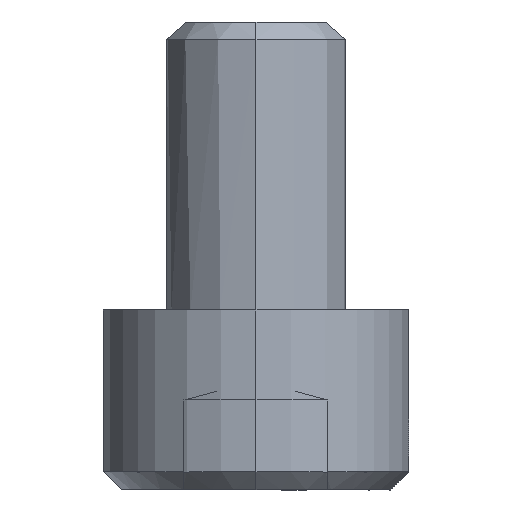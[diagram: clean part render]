
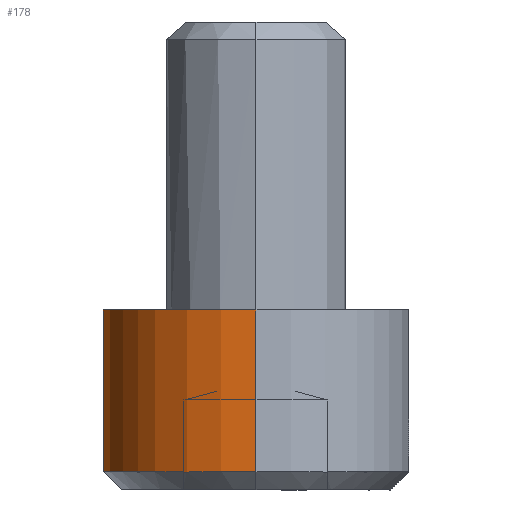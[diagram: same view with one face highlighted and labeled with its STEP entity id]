
A CAD part, left-side view. The second image highlights one B-rep face of the part: STEP entity #178.
In plain terms, the highlighted free-form (B-spline) face has degree [1, 2] with [2, 9] control points.
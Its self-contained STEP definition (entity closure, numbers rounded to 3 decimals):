
#178=ADVANCED_FACE('',(#303),#3728,.T.);
#303=FACE_OUTER_BOUND('',#434,.T.);
#434=EDGE_LOOP('',(#815,#816,#817,#818));
#815=ORIENTED_EDGE('',*,*,#3171,.F.);
#816=ORIENTED_EDGE('',*,*,#3173,.T.);
#817=ORIENTED_EDGE('',*,*,#3174,.T.);
#818=ORIENTED_EDGE('',*,*,#3175,.T.);
#1353=PCURVE('',#3727,#1893);
#1355=PCURVE('',#3728,#1895);
#1356=PCURVE('',#3728,#1896);
#1357=PCURVE('',#3728,#1897);
#1358=PCURVE('',#3728,#1898);
#1440=PCURVE('',#3680,#1980);
#1444=PCURVE('',#3735,#1984);
#1446=PCURVE('',#3735,#1986);
#1893=DEFINITIONAL_REPRESENTATION('',(#2488),#7107);
#1895=DEFINITIONAL_REPRESENTATION('',(#2491),#7107);
#1896=DEFINITIONAL_REPRESENTATION('',(#2493),#7107);
#1897=DEFINITIONAL_REPRESENTATION('',(#2494),#7107);
#1898=DEFINITIONAL_REPRESENTATION('',(#2496),#7107);
#1980=DEFINITIONAL_REPRESENTATION('',(#3414),#7107);
#1984=DEFINITIONAL_REPRESENTATION('',(#2598),#7107);
#1986=DEFINITIONAL_REPRESENTATION('',(#2600),#7107);
#2488=B_SPLINE_CURVE_WITH_KNOTS('',1,(#6095,#6096),.UNSPECIFIED.,.F.,.F.,
(2,2),(-13.352,0.),.UNSPECIFIED.);
#2491=B_SPLINE_CURVE_WITH_KNOTS('',1,(#6101,#6102),.UNSPECIFIED.,.F.,.F.,
(2,2),(-13.352,0.),.UNSPECIFIED.);
#2492=B_SPLINE_CURVE_WITH_KNOTS('',1,(#6103,#6104),.UNSPECIFIED.,.F.,.F.,
(2,2),(0.,4.5),.UNSPECIFIED.);
#2493=B_SPLINE_CURVE_WITH_KNOTS('',1,(#6105,#6106),.UNSPECIFIED.,.F.,.F.,
(2,2),(0.,4.5),.UNSPECIFIED.);
#2494=B_SPLINE_CURVE_WITH_KNOTS('',1,(#6112,#6113),.UNSPECIFIED.,.F.,.F.,
(2,2),(-13.352,0.),.UNSPECIFIED.);
#2495=B_SPLINE_CURVE_WITH_KNOTS('',1,(#6114,#6115),.UNSPECIFIED.,.F.,.F.,
(2,2),(0.,4.5),.UNSPECIFIED.);
#2496=B_SPLINE_CURVE_WITH_KNOTS('',1,(#6116,#6117),.UNSPECIFIED.,.F.,.F.,
(2,2),(0.,4.5),.UNSPECIFIED.);
#2598=B_SPLINE_CURVE_WITH_KNOTS('',1,(#6433,#6434),.UNSPECIFIED.,.F.,.F.,
(2,2),(0.,4.5),.UNSPECIFIED.);
#2600=B_SPLINE_CURVE_WITH_KNOTS('',1,(#6442,#6443),.UNSPECIFIED.,.F.,.F.,
(2,2),(0.,4.5),.UNSPECIFIED.);
#2901=SURFACE_CURVE('',#3386,(#1353,#1355),.PCURVE_S1.);
#2903=SURFACE_CURVE('',#2492,(#1356,#1444),.PCURVE_S1.);
#2904=SURFACE_CURVE('',#3387,(#1357,#1440),.PCURVE_S1.);
#2905=SURFACE_CURVE('',#2495,(#1358,#1446),.PCURVE_S1.);
#3171=EDGE_CURVE('',#3558,#3557,#2901,.T.);
#3173=EDGE_CURVE('',#3558,#3561,#2903,.T.);
#3174=EDGE_CURVE('',#3561,#3560,#2904,.T.);
#3175=EDGE_CURVE('',#3560,#3557,#2905,.T.);
#3386=(
BOUNDED_CURVE()
B_SPLINE_CURVE(2,(#6090,#6091,#6092,#6093,#6094),.UNSPECIFIED.,.F.,.F.)
B_SPLINE_CURVE_WITH_KNOTS((3,2,3),(-13.352,-6.676,0.),
 .UNSPECIFIED.)
CURVE()
GEOMETRIC_REPRESENTATION_ITEM()
RATIONAL_B_SPLINE_CURVE((1.,0.707,1.,0.707,1.))
REPRESENTATION_ITEM('')
);
#3387=(
BOUNDED_CURVE()
B_SPLINE_CURVE(2,(#6107,#6108,#6109,#6110,#6111),.UNSPECIFIED.,.F.,.F.)
B_SPLINE_CURVE_WITH_KNOTS((3,2,3),(-13.352,-6.676,0.),
 .UNSPECIFIED.)
CURVE()
GEOMETRIC_REPRESENTATION_ITEM()
RATIONAL_B_SPLINE_CURVE((1.,0.707,1.,0.707,1.))
REPRESENTATION_ITEM('')
);
#3414=(
BOUNDED_CURVE()
B_SPLINE_CURVE(2,(#6416,#6417,#6418,#6419,#6420),.UNSPECIFIED.,.F.,.F.)
B_SPLINE_CURVE_WITH_KNOTS((3,2,3),(-13.352,-6.676,0.),
 .UNSPECIFIED.)
CURVE()
GEOMETRIC_REPRESENTATION_ITEM()
RATIONAL_B_SPLINE_CURVE((1.,0.707,1.,0.707,1.))
REPRESENTATION_ITEM('')
);
#3557=VERTEX_POINT('',#6047);
#3558=VERTEX_POINT('',#6048);
#3560=VERTEX_POINT('',#6050);
#3561=VERTEX_POINT('',#6051);
#3680=PLANE('',#3854);
#3727=(
BOUNDED_SURFACE()
B_SPLINE_SURFACE(1,2,((#5851,#5852,#5853,#5854,#5855,#5856,#5857,#5858,#5859),
(#5860,#5861,#5862,#5863,#5864,#5865,#5866,#5867,#5868)),.UNSPECIFIED.,.F.,
 .F.,.F.)
B_SPLINE_SURFACE_WITH_KNOTS((2,2),(3,2,2,2,3),(0.,6.613),(0.,
1.571,3.142,4.712,6.283),
 .UNSPECIFIED.)
GEOMETRIC_REPRESENTATION_ITEM()
RATIONAL_B_SPLINE_SURFACE(((1.,0.707,1.,0.707,1.,
0.707,1.,0.707,1.),(1.,0.707,1.,0.707,
1.,0.707,1.,0.707,1.)))
REPRESENTATION_ITEM('')
SURFACE()
);
#3728=(
BOUNDED_SURFACE()
B_SPLINE_SURFACE(1,2,((#5869,#5870,#5871,#5872,#5873,#5874,#5875,#5876,#5877),
(#5878,#5879,#5880,#5881,#5882,#5883,#5884,#5885,#5886)),.UNSPECIFIED.,.F.,
 .F.,.F.)
B_SPLINE_SURFACE_WITH_KNOTS((2,2),(3,2,2,2,3),(0.,5.402),(0.,1.571,
3.142,4.712,6.283),.UNSPECIFIED.)
GEOMETRIC_REPRESENTATION_ITEM()
RATIONAL_B_SPLINE_SURFACE(((1.,0.707,1.,0.707,1.,
0.707,1.,0.707,1.),(1.,0.707,1.,0.707,
1.,0.707,1.,0.707,1.)))
REPRESENTATION_ITEM('')
SURFACE()
);
#3735=(
BOUNDED_SURFACE()
B_SPLINE_SURFACE(1,2,((#6009,#6010,#6011,#6012,#6013,#6014,#6015,#6016,#6017),
(#6018,#6019,#6020,#6021,#6022,#6023,#6024,#6025,#6026)),.UNSPECIFIED.,.F.,
 .F.,.F.)
B_SPLINE_SURFACE_WITH_KNOTS((2,2),(3,2,2,2,3),(0.,5.402),(0.,1.571,
3.142,4.712,6.283),.UNSPECIFIED.)
GEOMETRIC_REPRESENTATION_ITEM()
RATIONAL_B_SPLINE_SURFACE(((1.,0.707,1.,0.707,1.,
0.707,1.,0.707,1.),(1.,0.707,1.,0.707,
1.,0.707,1.,0.707,1.)))
REPRESENTATION_ITEM('')
SURFACE()
);
#3854=AXIS2_PLACEMENT_3D('',#6008,#3943,$);
#3943=DIRECTION('',(0.,0.,-1.));
#5851=CARTESIAN_POINT('',(-770.,295.,128.25));
#5852=CARTESIAN_POINT('',(-770.,295.,128.25));
#5853=CARTESIAN_POINT('',(-770.,295.,128.25));
#5854=CARTESIAN_POINT('',(-770.,295.,128.25));
#5855=CARTESIAN_POINT('',(-770.,295.,128.25));
#5856=CARTESIAN_POINT('',(-770.,295.,128.25));
#5857=CARTESIAN_POINT('',(-770.,295.,128.25));
#5858=CARTESIAN_POINT('',(-770.,295.,128.25));
#5859=CARTESIAN_POINT('',(-770.,295.,128.25));
#5860=CARTESIAN_POINT('',(-770.,290.324,132.926));
#5861=CARTESIAN_POINT('',(-765.324,290.324,132.926));
#5862=CARTESIAN_POINT('',(-765.324,295.,132.926));
#5863=CARTESIAN_POINT('',(-765.324,299.676,132.926));
#5864=CARTESIAN_POINT('',(-770.,299.676,132.926));
#5865=CARTESIAN_POINT('',(-774.676,299.676,132.926));
#5866=CARTESIAN_POINT('',(-774.676,295.,132.926));
#5867=CARTESIAN_POINT('',(-774.676,290.324,132.926));
#5868=CARTESIAN_POINT('',(-770.,290.324,132.926));
#5869=CARTESIAN_POINT('',(-770.,290.75,132.049));
#5870=CARTESIAN_POINT('',(-765.75,290.75,132.049));
#5871=CARTESIAN_POINT('',(-765.75,295.,132.049));
#5872=CARTESIAN_POINT('',(-765.75,299.25,132.049));
#5873=CARTESIAN_POINT('',(-770.,299.25,132.049));
#5874=CARTESIAN_POINT('',(-774.25,299.25,132.049));
#5875=CARTESIAN_POINT('',(-774.25,295.,132.049));
#5876=CARTESIAN_POINT('',(-774.25,290.75,132.049));
#5877=CARTESIAN_POINT('',(-770.,290.75,132.049));
#5878=CARTESIAN_POINT('',(-770.,290.75,137.451));
#5879=CARTESIAN_POINT('',(-765.75,290.75,137.451));
#5880=CARTESIAN_POINT('',(-765.75,295.,137.451));
#5881=CARTESIAN_POINT('',(-765.75,299.25,137.451));
#5882=CARTESIAN_POINT('',(-770.,299.25,137.451));
#5883=CARTESIAN_POINT('',(-774.25,299.25,137.451));
#5884=CARTESIAN_POINT('',(-774.25,295.,137.451));
#5885=CARTESIAN_POINT('',(-774.25,290.75,137.451));
#5886=CARTESIAN_POINT('',(-770.,290.75,137.451));
#6008=CARTESIAN_POINT('',(-775.101,289.899,137.));
#6009=CARTESIAN_POINT('',(-770.,299.25,132.049));
#6010=CARTESIAN_POINT('',(-774.25,299.25,132.049));
#6011=CARTESIAN_POINT('',(-774.25,295.,132.049));
#6012=CARTESIAN_POINT('',(-774.25,290.75,132.049));
#6013=CARTESIAN_POINT('',(-770.,290.75,132.049));
#6014=CARTESIAN_POINT('',(-765.75,290.75,132.049));
#6015=CARTESIAN_POINT('',(-765.75,295.,132.049));
#6016=CARTESIAN_POINT('',(-765.75,299.25,132.049));
#6017=CARTESIAN_POINT('',(-770.,299.25,132.049));
#6018=CARTESIAN_POINT('',(-770.,299.25,137.451));
#6019=CARTESIAN_POINT('',(-774.25,299.25,137.451));
#6020=CARTESIAN_POINT('',(-774.25,295.,137.451));
#6021=CARTESIAN_POINT('',(-774.25,290.75,137.451));
#6022=CARTESIAN_POINT('',(-770.,290.75,137.451));
#6023=CARTESIAN_POINT('',(-765.75,290.75,137.451));
#6024=CARTESIAN_POINT('',(-765.75,295.,137.451));
#6025=CARTESIAN_POINT('',(-765.75,299.25,137.451));
#6026=CARTESIAN_POINT('',(-770.,299.25,137.451));
#6047=CARTESIAN_POINT('',(-774.25,295.,132.5));
#6048=CARTESIAN_POINT('',(-765.75,295.,132.5));
#6050=CARTESIAN_POINT('',(-774.25,295.,137.));
#6051=CARTESIAN_POINT('',(-765.75,295.,137.));
#6090=CARTESIAN_POINT('',(-765.75,295.,132.5));
#6091=CARTESIAN_POINT('',(-765.75,299.25,132.5));
#6092=CARTESIAN_POINT('',(-770.,299.25,132.5));
#6093=CARTESIAN_POINT('',(-774.25,299.25,132.5));
#6094=CARTESIAN_POINT('',(-774.25,295.,132.5));
#6095=CARTESIAN_POINT('',(6.01,1.571));
#6096=CARTESIAN_POINT('',(6.01,4.712));
#6101=CARTESIAN_POINT('',(0.451,1.571));
#6102=CARTESIAN_POINT('',(0.451,4.712));
#6103=CARTESIAN_POINT('',(-765.75,295.,132.5));
#6104=CARTESIAN_POINT('',(-765.75,295.,137.));
#6105=CARTESIAN_POINT('',(0.451,1.571));
#6106=CARTESIAN_POINT('',(4.951,1.571));
#6107=CARTESIAN_POINT('',(-765.75,295.,137.));
#6108=CARTESIAN_POINT('',(-765.75,299.25,137.));
#6109=CARTESIAN_POINT('',(-770.,299.25,137.));
#6110=CARTESIAN_POINT('',(-774.25,299.25,137.));
#6111=CARTESIAN_POINT('',(-774.25,295.,137.));
#6112=CARTESIAN_POINT('',(4.951,1.571));
#6113=CARTESIAN_POINT('',(4.951,4.712));
#6114=CARTESIAN_POINT('',(-774.25,295.,137.));
#6115=CARTESIAN_POINT('',(-774.25,295.,132.5));
#6116=CARTESIAN_POINT('',(4.951,4.712));
#6117=CARTESIAN_POINT('',(0.451,4.712));
#6416=CARTESIAN_POINT('',(0.,7.625));
#6417=CARTESIAN_POINT('',(4.25,7.625));
#6418=CARTESIAN_POINT('',(4.25,3.375));
#6419=CARTESIAN_POINT('',(4.25,-0.875));
#6420=CARTESIAN_POINT('',(0.,-0.875));
#6433=CARTESIAN_POINT('',(0.451,4.712));
#6434=CARTESIAN_POINT('',(4.951,4.712));
#6442=CARTESIAN_POINT('',(4.951,1.571));
#6443=CARTESIAN_POINT('',(0.451,1.571));
#7107=(
GEOMETRIC_REPRESENTATION_CONTEXT(2)
PARAMETRIC_REPRESENTATION_CONTEXT()
REPRESENTATION_CONTEXT('pspace','')
);
